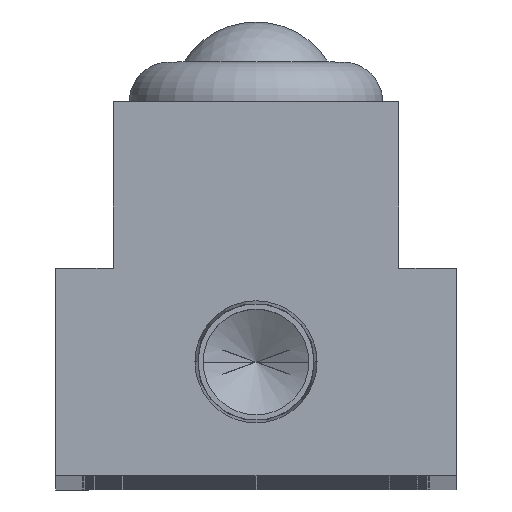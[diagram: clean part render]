
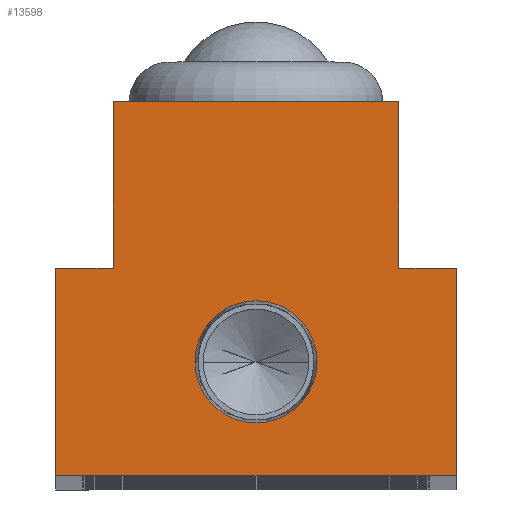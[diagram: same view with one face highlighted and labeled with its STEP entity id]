
A CAD part, top view. The second image highlights one B-rep face of the part: STEP entity #13598.
In plain terms, the highlighted planar face has unit normal (0, 0, 1).
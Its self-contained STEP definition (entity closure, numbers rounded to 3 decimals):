
#340 = ORIENTED_EDGE ( 'NONE', *, *, #1919, .T. ) ;
#554 = CARTESIAN_POINT ( 'NONE',  ( -10.7, 28., 0. ) ) ;
#661 = CARTESIAN_POINT ( 'NONE',  ( 0., 8.5, 0. ) ) ;
#703 = EDGE_CURVE ( 'NONE', #15346, #9297, #13066, .T. ) ;
#844 = ORIENTED_EDGE ( 'NONE', *, *, #9523, .T. ) ;
#1111 = DIRECTION ( 'NONE',  ( 0., -1., 0. ) ) ;
#1126 = DIRECTION ( 'NONE',  ( -1., 0., 0. ) ) ;
#1347 = EDGE_CURVE ( 'NONE', #9297, #4319, #6103, .T. ) ;
#1919 = EDGE_CURVE ( 'NONE', #6050, #7838, #2879, .T. ) ;
#2006 = DIRECTION ( 'NONE',  ( 1., 0., 0. ) ) ;
#2022 = VERTEX_POINT ( 'NONE', #9145 ) ;
#2026 = EDGE_CURVE ( 'NONE', #16977, #15744, #3932, .T. ) ;
#2135 = DIRECTION ( 'NONE',  ( 1., 0., 0. ) ) ;
#2174 = EDGE_LOOP ( 'NONE', ( #7256, #13378 ) ) ;
#2218 = ORIENTED_EDGE ( 'NONE', *, *, #15638, .T. ) ;
#2277 = ORIENTED_EDGE ( 'NONE', *, *, #703, .T. ) ;
#2477 = VECTOR ( 'NONE', #2135, 1000. ) ;
#2879 = LINE ( 'NONE', #6165, #16378 ) ;
#2983 = PLANE ( 'NONE',  #13719 ) ;
#3110 = DIRECTION ( 'NONE',  ( 1., 0., 0. ) ) ;
#3242 = FACE_OUTER_BOUND ( 'NONE', #12123, .T. ) ;
#3382 = EDGE_CURVE ( 'NONE', #8546, #6050, #9105, .T. ) ;
#3932 = CIRCLE ( 'NONE', #11080, 4.574 ) ;
#4319 = VERTEX_POINT ( 'NONE', #11761 ) ;
#4320 = VECTOR ( 'NONE', #7513, 1000. ) ;
#4380 = ORIENTED_EDGE ( 'NONE', *, *, #11059, .T. ) ;
#4723 = DIRECTION ( 'NONE',  ( -1., 0., 0. ) ) ;
#4759 = LINE ( 'NONE', #11514, #4320 ) ;
#5141 = DIRECTION ( 'NONE',  ( 0., 0., 1. ) ) ;
#6050 = VERTEX_POINT ( 'NONE', #554 ) ;
#6103 = LINE ( 'NONE', #15590, #2477 ) ;
#6165 = CARTESIAN_POINT ( 'NONE',  ( -10.7, 28., 0. ) ) ;
#6634 = CARTESIAN_POINT ( 'NONE',  ( 15., 0., 0. ) ) ;
#7256 = ORIENTED_EDGE ( 'NONE', *, *, #10998, .F. ) ;
#7513 = DIRECTION ( 'NONE',  ( 0., 1., 0. ) ) ;
#7551 = EDGE_CURVE ( 'NONE', #2022, #16570, #13209, .T. ) ;
#7838 = VERTEX_POINT ( 'NONE', #12036 ) ;
#7972 = DIRECTION ( 'NONE',  ( 0., 1., 0. ) ) ;
#8546 = VERTEX_POINT ( 'NONE', #9424 ) ;
#8775 = CIRCLE ( 'NONE', #16247, 4.574 ) ;
#8858 = CARTESIAN_POINT ( 'NONE',  ( 10.7, 15.5, 0. ) ) ;
#8872 = DIRECTION ( 'NONE',  ( 0., -1., 0. ) ) ;
#9090 = CARTESIAN_POINT ( 'NONE',  ( 4.574, 8.5, 0. ) ) ;
#9105 = LINE ( 'NONE', #10533, #15410 ) ;
#9139 = CARTESIAN_POINT ( 'NONE',  ( -15., 0., 0. ) ) ;
#9145 = CARTESIAN_POINT ( 'NONE',  ( 15., 15.5, 0. ) ) ;
#9297 = VERTEX_POINT ( 'NONE', #14120 ) ;
#9424 = CARTESIAN_POINT ( 'NONE',  ( 10.7, 28., 0. ) ) ;
#9523 = EDGE_CURVE ( 'NONE', #4319, #2022, #16823, .T. ) ;
#9531 = VECTOR ( 'NONE', #4723, 1000. ) ;
#9640 = VECTOR ( 'NONE', #16688, 1000. ) ;
#9681 = VECTOR ( 'NONE', #1111, 1000. ) ;
#9851 = CARTESIAN_POINT ( 'NONE',  ( 0., 0., 0. ) ) ;
#10121 = DIRECTION ( 'NONE',  ( 0., 0., 1. ) ) ;
#10533 = CARTESIAN_POINT ( 'NONE',  ( -10.7, 28., 0. ) ) ;
#10856 = FACE_BOUND ( 'NONE', #2174, .T. ) ;
#10998 = EDGE_CURVE ( 'NONE', #15744, #16977, #8775, .T. ) ;
#11059 = EDGE_CURVE ( 'NONE', #16570, #8546, #4759, .T. ) ;
#11080 = AXIS2_PLACEMENT_3D ( 'NONE', #13201, #5141, #14551 ) ;
#11119 = ORIENTED_EDGE ( 'NONE', *, *, #1347, .T. ) ;
#11212 = DIRECTION ( 'NONE',  ( 0., 0., 1. ) ) ;
#11514 = CARTESIAN_POINT ( 'NONE',  ( 10.7, 28., 0. ) ) ;
#11761 = CARTESIAN_POINT ( 'NONE',  ( 15., 0., 0. ) ) ;
#11974 = VECTOR ( 'NONE', #7972, 1000. ) ;
#12036 = CARTESIAN_POINT ( 'NONE',  ( -10.7, 15.5, 0. ) ) ;
#12123 = EDGE_LOOP ( 'NONE', ( #4380, #13621, #340, #2218, #2277, #11119, #844, #13539 ) ) ;
#12695 = CARTESIAN_POINT ( 'NONE',  ( 10.7, 15.5, 0. ) ) ;
#13066 = LINE ( 'NONE', #9139, #9681 ) ;
#13201 = CARTESIAN_POINT ( 'NONE',  ( 0., 8.5, 0. ) ) ;
#13209 = LINE ( 'NONE', #12695, #9640 ) ;
#13378 = ORIENTED_EDGE ( 'NONE', *, *, #2026, .F. ) ;
#13453 = CARTESIAN_POINT ( 'NONE',  ( -15., 15.5, 0. ) ) ;
#13539 = ORIENTED_EDGE ( 'NONE', *, *, #7551, .T. ) ;
#13598 = ADVANCED_FACE ( 'NONE', ( #10856, #3242 ), #2983, .T. ) ;
#13621 = ORIENTED_EDGE ( 'NONE', *, *, #3382, .T. ) ;
#13719 = AXIS2_PLACEMENT_3D ( 'NONE', #9851, #11212, #3110 ) ;
#14120 = CARTESIAN_POINT ( 'NONE',  ( -15., 0., 0. ) ) ;
#14551 = DIRECTION ( 'NONE',  ( 1., 0., 0. ) ) ;
#15346 = VERTEX_POINT ( 'NONE', #13453 ) ;
#15360 = CARTESIAN_POINT ( 'NONE',  ( -4.574, 8.5, 0. ) ) ;
#15410 = VECTOR ( 'NONE', #1126, 1000. ) ;
#15590 = CARTESIAN_POINT ( 'NONE',  ( 15., 0., 0. ) ) ;
#15638 = EDGE_CURVE ( 'NONE', #7838, #15346, #16677, .T. ) ;
#15744 = VERTEX_POINT ( 'NONE', #9090 ) ;
#16247 = AXIS2_PLACEMENT_3D ( 'NONE', #661, #10121, #2006 ) ;
#16378 = VECTOR ( 'NONE', #8872, 1000. ) ;
#16570 = VERTEX_POINT ( 'NONE', #8858 ) ;
#16677 = LINE ( 'NONE', #16786, #9531 ) ;
#16688 = DIRECTION ( 'NONE',  ( -1., 0., 0. ) ) ;
#16786 = CARTESIAN_POINT ( 'NONE',  ( -10.7, 15.5, 0. ) ) ;
#16823 = LINE ( 'NONE', #6634, #11974 ) ;
#16977 = VERTEX_POINT ( 'NONE', #15360 ) ;
